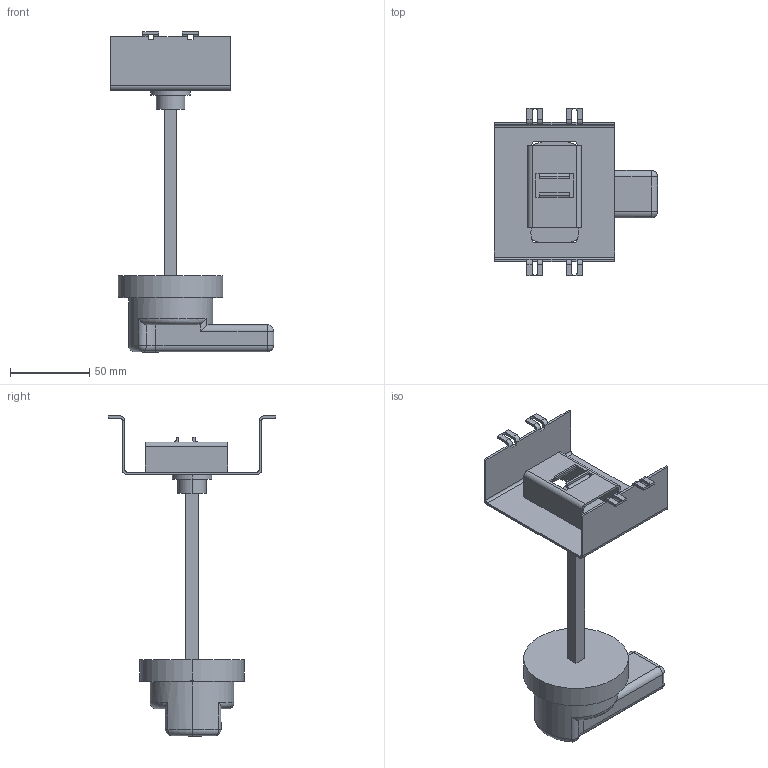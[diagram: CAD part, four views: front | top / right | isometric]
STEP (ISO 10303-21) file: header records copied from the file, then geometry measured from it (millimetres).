
FILE_DESCRIPTION (( 'STEP AP203' ), '1' );
FILE_NAME ('Ðó÷íîé ïîâîðîòíûé ïðèâîä ê ÂÀ-99Ì 63À.STEP', '2018-06-07T12:25:08', ( '' ), ( '' ), 'SwSTEP 2.0', 'SolidWorks 2017', '' );
FILE_SCHEMA (( 'CONFIG_CONTROL_DESIGN' ));
Length unit declared in the file: millimetre
Products named in the file (1): Ðó÷íîé ïîâîðîòíûé ïðèâîä ê ÂÀ-99Ì 63À
Bounding box: 103.04 x 106 x 202.2 mm (x, y, z)
Volume: 161929.4 mm3; surface area: 52164.6 mm2
Topology: 1 solids, 1 shells, 190 faces, 528 edges, 337 vertices
Faces by surface type: plane 105, cylinder 64, torus 6, sphere 6, cone 5, bspline 4
Entity records: 6362 total; most frequent: CARTESIAN_POINT 1392, ORIENTED_EDGE 1040, DIRECTION 1001, EDGE_CURVE 520, LINE 353, VECTOR 353, VERTEX_POINT 335, AXIS2_PLACEMENT_3D 324
